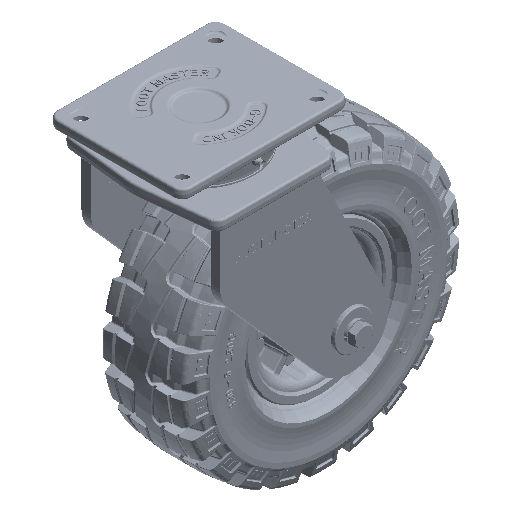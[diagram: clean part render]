
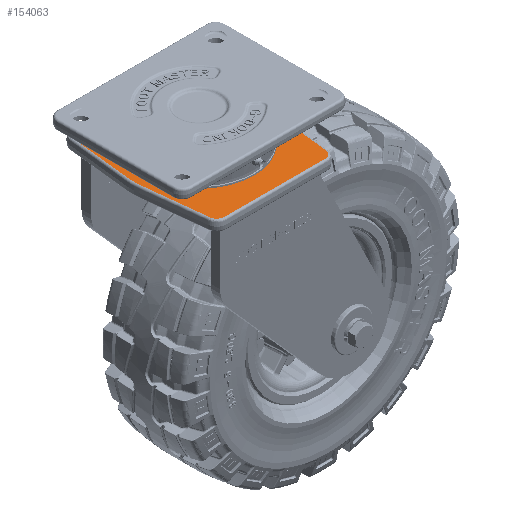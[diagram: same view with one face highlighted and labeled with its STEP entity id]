
A CAD part, isometric view. The second image highlights one B-rep face of the part: STEP entity #154063.
In plain terms, the highlighted planar face has unit normal (0, 0, 1).
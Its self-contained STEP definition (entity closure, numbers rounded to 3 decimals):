
#19595=FACE_BOUND('',#50746,.T.);
#20018=LINE('',#201158,#24770);
#20019=LINE('',#201162,#24771);
#20020=LINE('',#201166,#24772);
#20021=LINE('',#201170,#24773);
#20022=LINE('',#201174,#24774);
#20023=LINE('',#201177,#24775);
#24770=VECTOR('',#174860,10.);
#24771=VECTOR('',#174863,10.);
#24772=VECTOR('',#174866,10.);
#24773=VECTOR('',#174869,10.);
#24774=VECTOR('',#174872,10.);
#24775=VECTOR('',#174875,10.);
#29451=PLANE('',#163919);
#40983=FACE_OUTER_BOUND('',#50745,.T.);
#50745=EDGE_LOOP('',(#105947,#105948,#105949,#105950,#105951,#105952,#105953,
#105954,#105955,#105956,#105957,#105958));
#50746=EDGE_LOOP('',(#105959,#105960));
#60806=ELLIPSE('',#163920,8.055,8.);
#60807=ELLIPSE('',#163921,8.055,8.);
#60808=ELLIPSE('',#163923,8.055,8.);
#60809=ELLIPSE('',#163924,8.055,8.);
#60856=CIRCLE('',#163861,57.);
#60857=CIRCLE('',#163862,57.);
#60877=CIRCLE('',#163922,67.686);
#60878=CIRCLE('',#163925,67.686);
#67600=VERTEX_POINT('',#200904);
#67601=VERTEX_POINT('',#200905);
#67635=VERTEX_POINT('',#201154);
#67636=VERTEX_POINT('',#201155);
#67637=VERTEX_POINT('',#201157);
#67638=VERTEX_POINT('',#201159);
#67639=VERTEX_POINT('',#201161);
#67640=VERTEX_POINT('',#201163);
#67641=VERTEX_POINT('',#201165);
#67642=VERTEX_POINT('',#201167);
#67643=VERTEX_POINT('',#201169);
#67644=VERTEX_POINT('',#201171);
#67645=VERTEX_POINT('',#201173);
#67646=VERTEX_POINT('',#201175);
#81982=EDGE_CURVE('',#67600,#67601,#60856,.T.);
#81983=EDGE_CURVE('',#67601,#67600,#60857,.T.);
#82049=EDGE_CURVE('',#67635,#67636,#60806,.T.);
#82050=EDGE_CURVE('',#67637,#67635,#20018,.T.);
#82051=EDGE_CURVE('',#67638,#67637,#60807,.T.);
#82052=EDGE_CURVE('',#67639,#67638,#20019,.T.);
#82053=EDGE_CURVE('',#67640,#67639,#60877,.T.);
#82054=EDGE_CURVE('',#67641,#67640,#20020,.T.);
#82055=EDGE_CURVE('',#67642,#67641,#60808,.T.);
#82056=EDGE_CURVE('',#67643,#67642,#20021,.T.);
#82057=EDGE_CURVE('',#67644,#67643,#60809,.T.);
#82058=EDGE_CURVE('',#67645,#67644,#20022,.T.);
#82059=EDGE_CURVE('',#67646,#67645,#60878,.T.);
#82060=EDGE_CURVE('',#67636,#67646,#20023,.T.);
#105947=ORIENTED_EDGE('',*,*,#82049,.F.);
#105948=ORIENTED_EDGE('',*,*,#82050,.F.);
#105949=ORIENTED_EDGE('',*,*,#82051,.F.);
#105950=ORIENTED_EDGE('',*,*,#82052,.F.);
#105951=ORIENTED_EDGE('',*,*,#82053,.F.);
#105952=ORIENTED_EDGE('',*,*,#82054,.F.);
#105953=ORIENTED_EDGE('',*,*,#82055,.F.);
#105954=ORIENTED_EDGE('',*,*,#82056,.F.);
#105955=ORIENTED_EDGE('',*,*,#82057,.F.);
#105956=ORIENTED_EDGE('',*,*,#82058,.F.);
#105957=ORIENTED_EDGE('',*,*,#82059,.F.);
#105958=ORIENTED_EDGE('',*,*,#82060,.F.);
#105959=ORIENTED_EDGE('',*,*,#81982,.T.);
#105960=ORIENTED_EDGE('',*,*,#81983,.T.);
#154063=ADVANCED_FACE('',(#40983,#19595),#29451,.T.);
#163861=AXIS2_PLACEMENT_3D('',#200906,#174704,#174705);
#163862=AXIS2_PLACEMENT_3D('',#200907,#174706,#174707);
#163919=AXIS2_PLACEMENT_3D('',#201153,#174856,#174857);
#163920=AXIS2_PLACEMENT_3D('',#201156,#174858,#174859);
#163921=AXIS2_PLACEMENT_3D('',#201160,#174861,#174862);
#163922=AXIS2_PLACEMENT_3D('',#201164,#174864,#174865);
#163923=AXIS2_PLACEMENT_3D('',#201168,#174867,#174868);
#163924=AXIS2_PLACEMENT_3D('',#201172,#174870,#174871);
#163925=AXIS2_PLACEMENT_3D('',#201176,#174873,#174874);
#174704=DIRECTION('center_axis',(0.,0.,
-1.));
#174705=DIRECTION('ref_axis',(1.,0.,0.));
#174706=DIRECTION('center_axis',(0.,0.,
-1.));
#174707=DIRECTION('ref_axis',(1.,0.,0.));
#174856=DIRECTION('center_axis',(0.,0.,
1.));
#174857=DIRECTION('ref_axis',(0.,-1.,0.));
#174858=DIRECTION('center_axis',(0.,0.,
-1.));
#174859=DIRECTION('ref_axis',(0.667,0.745,0.));
#174860=DIRECTION('',(1.,0.,0.));
#174861=DIRECTION('center_axis',(0.,0.,
-1.));
#174862=DIRECTION('ref_axis',(-0.667,0.745,0.));
#174863=DIRECTION('',(0.11,0.994,0.));
#174864=DIRECTION('center_axis',(0.,0.,
-1.));
#174865=DIRECTION('ref_axis',(-1.,0.,0.));
#174866=DIRECTION('',(-0.11,0.994,0.));
#174867=DIRECTION('center_axis',(0.,0.,
-1.));
#174868=DIRECTION('ref_axis',(-0.667,-0.745,0.));
#174869=DIRECTION('',(-1.,0.,0.));
#174870=DIRECTION('center_axis',(0.,0.,
-1.));
#174871=DIRECTION('ref_axis',(0.667,-0.745,0.));
#174872=DIRECTION('',(-0.11,-0.994,0.));
#174873=DIRECTION('center_axis',(0.,0.,
-1.));
#174874=DIRECTION('ref_axis',(1.,0.,0.));
#174875=DIRECTION('',(0.11,-0.994,0.));
#200904=CARTESIAN_POINT('',(57.,0.,-30.));
#200905=CARTESIAN_POINT('',(-57.,0.,-30.));
#200906=CARTESIAN_POINT('Origin',(0.,0.,
-30.));
#200907=CARTESIAN_POINT('Origin',(0.,0.,
-30.));
#201153=CARTESIAN_POINT('Origin',(105.,0.,
-30.));
#201154=CARTESIAN_POINT('',(52.287,78.686,-30.));
#201155=CARTESIAN_POINT('',(60.209,71.589,-30.));
#201156=CARTESIAN_POINT('Origin',(52.233,70.656,-30.));
#201157=CARTESIAN_POINT('',(-52.287,78.686,-30.));
#201158=CARTESIAN_POINT('',(21.75,78.686,-30.));
#201159=CARTESIAN_POINT('',(-60.209,71.589,-30.));
#201160=CARTESIAN_POINT('Origin',(-52.233,70.656,-30.));
#201161=CARTESIAN_POINT('',(-67.279,7.412,-30.));
#201162=CARTESIAN_POINT('',(-66.65,13.126,-30.));
#201163=CARTESIAN_POINT('',(-67.279,-7.412,-30.));
#201164=CARTESIAN_POINT('Origin',(0.,0.,
-30.));
#201165=CARTESIAN_POINT('',(-60.209,-71.589,-30.));
#201166=CARTESIAN_POINT('',(-62.61,-49.794,-30.));
#201167=CARTESIAN_POINT('',(-52.287,-78.686,-30.));
#201168=CARTESIAN_POINT('Origin',(-52.233,-70.656,-30.));
#201169=CARTESIAN_POINT('',(52.287,-78.686,-30.));
#201170=CARTESIAN_POINT('',(83.25,-78.686,-30.));
#201171=CARTESIAN_POINT('',(60.209,-71.589,-30.));
#201172=CARTESIAN_POINT('Origin',(52.233,-70.656,-30.));
#201173=CARTESIAN_POINT('',(67.279,-7.412,-30.));
#201174=CARTESIAN_POINT('',(67.909,-1.698,-30.));
#201175=CARTESIAN_POINT('',(67.279,7.412,-30.));
#201176=CARTESIAN_POINT('Origin',(0.,0.,
-30.));
#201177=CARTESIAN_POINT('',(63.869,38.365,-30.));
